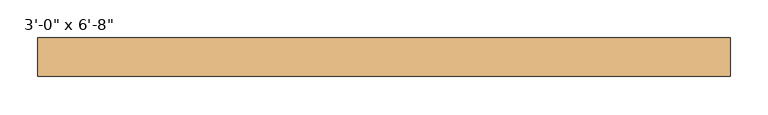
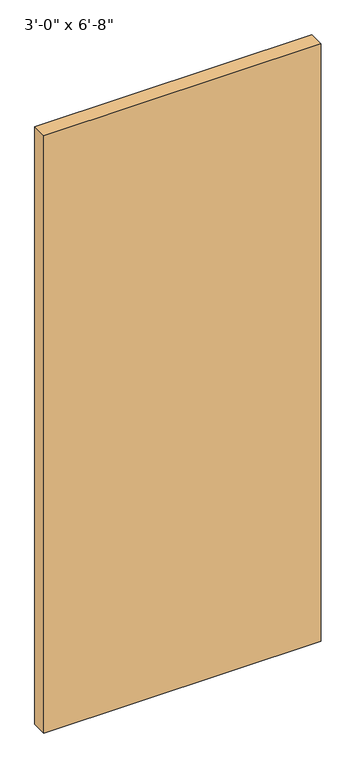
"""IFC4 building model written with IfcOpenShell, lengths in millimetres: door geometry."""

from ifc_helpers import new_model, si_unit, origin, origin_with_axes, place, context, project, spatial, polyline, outline, extrude, source, transform, mapped, element, save


def door_64db3e48(model_context):
    return source(origin(), model_context, "Body", "SweptSolid", [
        extrude(outline(polyline([(457.5, -31.55), (457.5, -82.55), (-457.5, -82.55), (-457.5, -31.55), (457.5, -31.55)])), origin_with_axes(), (0.0, 0.0, 1.0), 2082.8),
    ])


if __name__ == "__main__":
    model = new_model("IFC4")
    model_context = context("Model", 3, world=origin())
    ifc_project = project(units=[si_unit("LENGTHUNIT", "METRE", prefix="MILLI")], contexts=[model_context])
    site = spatial("IfcSite", under=ifc_project)
    building = spatial("IfcBuilding", under=site)
    placement = place(None, origin())
    door_shape = door_64db3e48(model_context)
    element("IfcDoor", 1, ObjectType="Planitar - Single Door_Flush Panel : 3'-0\" x 6'-8\"", at=placement, inside=building, context=model_context, shape_type="MappedRepresentation", body=[
        mapped(door_shape, transform((0.0, 0.0, 0.0), x_axis=(1.0, 0.0, 0.0), y_axis=(0.0, 1.0, 0.0), z_axis=(0.0, 0.0, 1.0))),
    ])
    save(model, "model.ifc")
